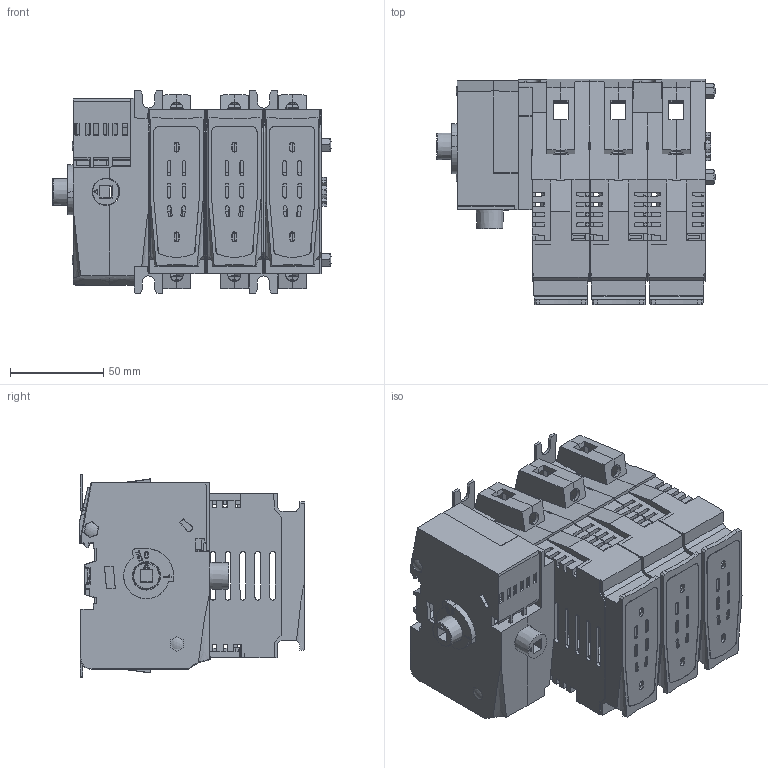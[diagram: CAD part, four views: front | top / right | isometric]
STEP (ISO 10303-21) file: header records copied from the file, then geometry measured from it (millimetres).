
FILE_DESCRIPTION(/* description */ (''),/* implementation_level */ '2;1');
FILE_NAME(/* name */ '044439_mSDF80.stp',/* time_stamp */ '2022-02-11T14:24:55+01:00',/* author */ (''),/* organization */ (''),/* preprocessor_version */ 'ST-DEVELOPER v18.1',/* originating_system */ 'SIEMENS PLM Software NX 1973',/* authorisation */ '');
FILE_SCHEMA (('AUTOMOTIVE_DESIGN { 1 0 10303 214 3 1 1 1 }'));
Products named in the file (1): 710_0888BCF556bw
Bounding box: 149.34 x 120.92 x 108.61 mm (x, y, z)
Volume: 209027.9 mm3; surface area: 283442.2 mm2
Topology: 13 solids, 14 shells, 2885 faces, 8740 edges, 5707 vertices
Faces by surface type: plane 2323, cylinder 295, cone 197, bspline 39, extrusion 20, sphere 7, torus 4
Entity records: 99278 total; most frequent: CARTESIAN_POINT 20469, ORIENTED_EDGE 17346, DIRECTION 15031, EDGE_CURVE 8673, VECTOR 7345, LINE 7325, VERTEX_POINT 5677, AXIS2_PLACEMENT_3D 3843
